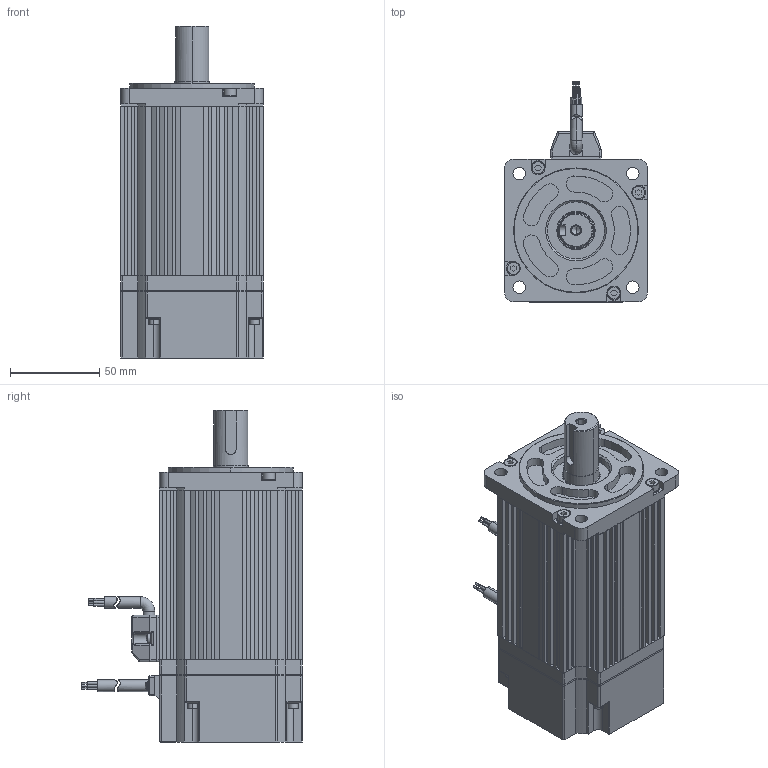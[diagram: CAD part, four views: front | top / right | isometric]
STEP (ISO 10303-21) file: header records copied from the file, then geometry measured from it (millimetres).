
FILE_DESCRIPTION (( 'STEP AP203' ), '1' );
FILE_NAME ('VM5-L08A-1R030-D1.STEP', '2019-03-15T10:39:36', ( 'ZSM' ), ( '' ), 'SwSTEP 2.0', 'SolidWorks 2014', '' );
FILE_SCHEMA (( 'CONFIG_CONTROL_DESIGN' ));
Length unit declared in the file: millimetre
Products named in the file (24): D08B1004C_D08B1004C4; 萇埭盄; GB T848-2002 ±3; D08B102E; 172167-1; GB／T 818-2000[十字槽盘头螺钉M3×6]; D08B102F; VM5-L08A-1R030-D1; GB T 848-2002 ±4; D06B106B; GB／T70．1-2000内六角圆柱头螺钉M4×12; D06B110B; D08B101B_D08B101B4; GB／T 70．1-2000[内六角圆柱头螺钉M3×18]; 15pin萇擢; D08B1003C_D08B1003C4; D06B106A; 172163-1; D08B103C_D08B103C4; D06B110A; GB T848-2002 ±2.5; D08B102D; D08B106D; GB 845-1985[ﾊｮﾗﾖｲﾛﾅﾌﾍｷﾗﾔｹ･ﾂﾝｶ､-CﾐﾍST2.5｡ﾁ8]
Assembly tree (48 placements, depth 3):
  VM5-L08A-1R030-D1
    D08B1003C_D08B1003C4
      D08B101B_D08B101B4
    D08B1004C_D08B1004C4
      D08B103C_D08B103C4
      D08B102D
    D08B102E
    D08B102F
    D06B106B
    D06B110B
    172163-1
      15pin萇擢
    GB T848-2002 ±2.5  x2
    GB 845-1985[ﾊｮﾗﾖｲﾛﾅﾌﾍｷﾗﾔｹ･ﾂﾝｶ､-CﾐﾍST2.5｡ﾁ8]  x2
    GB T848-2002 ±3  x10
    GB／T 818-2000[十字槽盘头螺钉M3×6]  x2
    GB T 848-2002 ±4  x4
    GB／T70．1-2000内六角圆柱头螺钉M4×12  x8
    GB／T 70．1-2000[内六角圆柱头螺钉M3×18]  x4
    D06B106A
    D06B110A
    D08B106D
    172167-1
      萇埭盄
Bounding box: 80 x 123.5 x 186 mm (x, y, z)
Volume: 262733.4 mm3; surface area: 184770.4 mm2
Topology: 46 solids, 46 shells, 1611 faces, 3999 edges, 2539 vertices
Faces by surface type: plane 669, cylinder 659, cone 115, torus 76, bspline 60, sphere 32
Entity records: 44500 total; most frequent: CARTESIAN_POINT 9761, DIRECTION 6737, ORIENTED_EDGE 6520, EDGE_CURVE 3260, AXIS2_PLACEMENT_3D 2481, VERTEX_POINT 2093, VECTOR 1775, LINE 1775
